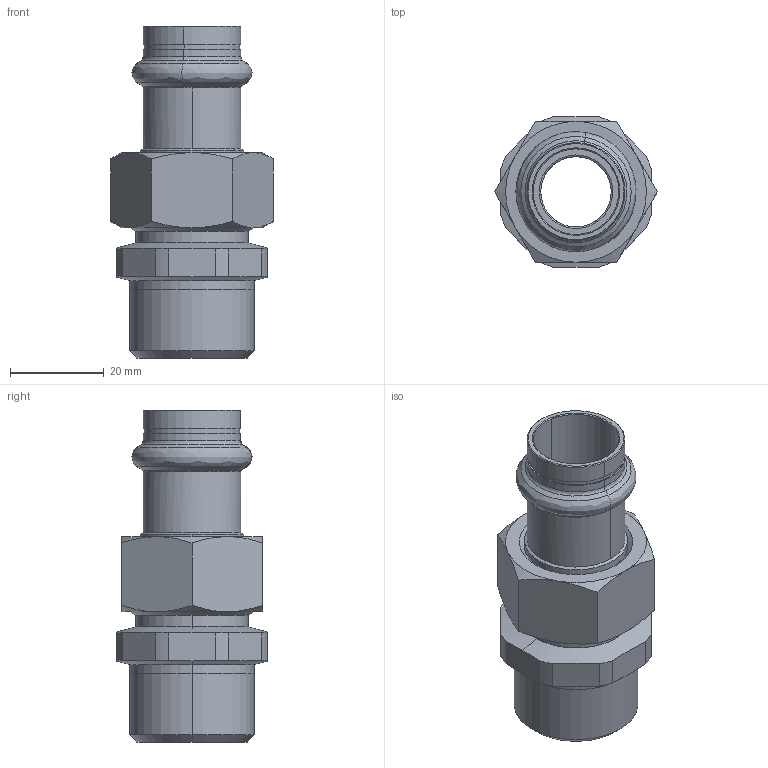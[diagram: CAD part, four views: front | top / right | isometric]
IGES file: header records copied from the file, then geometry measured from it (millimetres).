
Start section: Elysium IGES Interface
Global section: file name: F:\3d modellen sudo\S-Pr VP\SP6331GV\6331GVW1834.igs; native system: CoCreate Modeling 17.00A  17-Jun-2010; preprocessor: CoCreate IGES_3D V2.2; author: Unknown; organization: Unknown; date: 20130128.154707; units: millimetre
Bounding box: 34.64 x 32 x 70.7 mm (x, y, z)
Volume: 20939.9 mm3; surface area: 14368.3 mm2
Topology: 3 solids, 3 shells, 128 faces, 296 edges, 178 vertices
Faces by surface type: bspline 128
